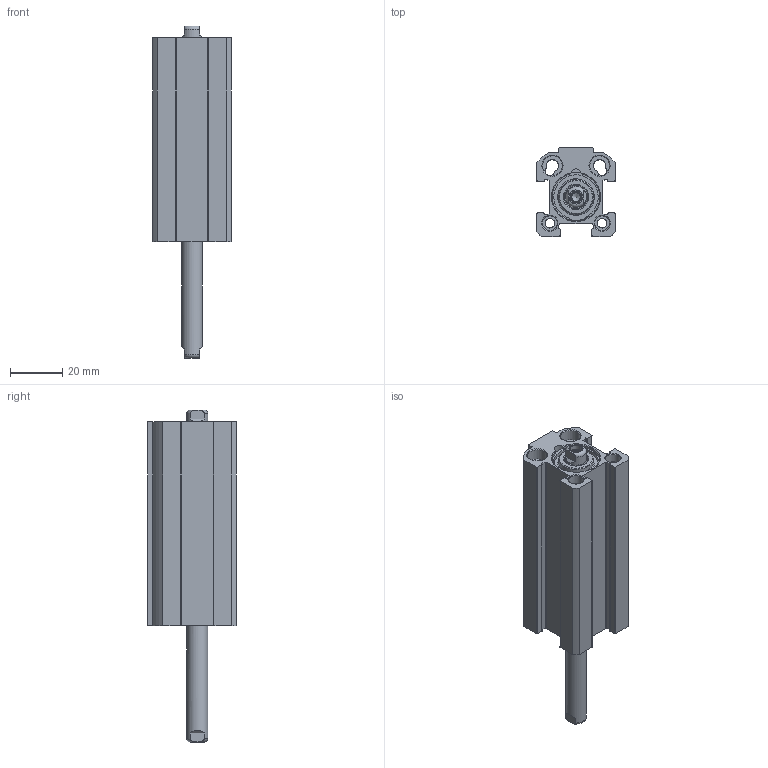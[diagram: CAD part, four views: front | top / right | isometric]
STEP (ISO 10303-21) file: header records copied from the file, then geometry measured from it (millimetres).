
FILE_DESCRIPTION(/* description */ ('Unknown'),/* implementation_level */ '2;1');
FILE_NAME(/* name */ 'FBN 16_40',/* time_stamp */ '2026-04-29T09:01:08+02:00',/* author */ ('Unknown'),/* organization */ ('Unknown'),/* preprocessor_version */ 'ST-DEVELOPER v18.102',/* originating_system */ 'Solid Edge',/* authorisation */ 'Unknown');
FILE_SCHEMA (('AUTOMOTIVE_DESIGN {1 0 10303 214 3 1 1}'));
Length unit declared in the file: millimetre
Products named in the file (5): FBN 16_40; Kolbenstange; Profilrohr; Kit_1; Kit_2
Assembly tree (5 placements, depth 2):
  FBN 16_40
    Kolbenstange  x2
    Profilrohr
    Kit_1
    Kit_2
Bounding box: 30 x 34 x 127 mm (x, y, z)
Volume: 49736.5 mm3; surface area: 29225.4 mm2
Topology: 7 solids, 7 shells, 229 faces, 549 edges, 356 vertices
Faces by surface type: plane 90, cylinder 83, cone 42, torus 14
Full cylindrical faces by diameter (mm): 1.3 x2, 3.242 x4, 3.7 x2, 4.134 x4, 4.25 x2, 5.6 x4, 8 x2, 8.42 x2, 9.2 x2, 11.36 x2, 11.5 x2, 13.2 x2, 16 x3, 17.9 x4, 19 x2
Entity records: 6923 total; most frequent: CARTESIAN_POINT 1107, DIRECTION 1040, ORIENTED_EDGE 818, AXIS2_PLACEMENT_3D 437, EDGE_CURVE 409, FACE_BOUND 327, EDGE_LOOP 326, VERTEX_POINT 308
